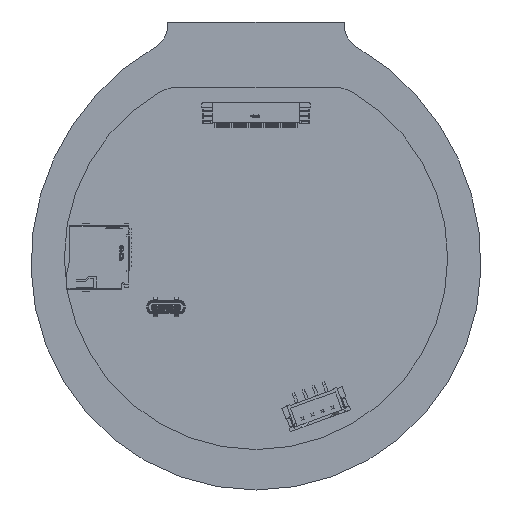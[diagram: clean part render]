
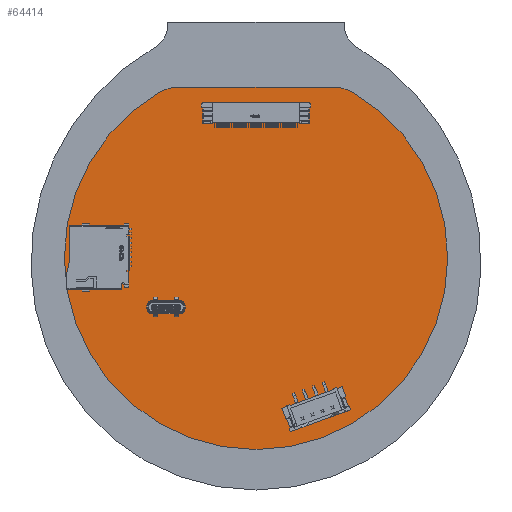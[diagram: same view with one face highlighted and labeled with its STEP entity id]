
A CAD part, front view. The second image highlights one B-rep face of the part: STEP entity #64414.
In plain terms, the highlighted planar face has unit normal (0, -1, 0).
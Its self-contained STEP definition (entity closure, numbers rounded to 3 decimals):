
#4592=CIRCLE('',#68117,8.);
#4594=CIRCLE('',#68120,45.);
#4596=CIRCLE('',#68123,8.);
#5982=FACE_OUTER_BOUND('',#9259,.T.);
#9259=EDGE_LOOP('',(#43471,#43472,#43473,#43474));
#12657=LINE('',#88536,#20277);
#20277=VECTOR('',#72471,10.);
#27906=VERTEX_POINT('',#88520);
#27907=VERTEX_POINT('',#88521);
#27910=VERTEX_POINT('',#88529);
#27912=VERTEX_POINT('',#88535);
#34103=EDGE_CURVE('',#27906,#27907,#4592,.T.);
#34107=EDGE_CURVE('',#27910,#27907,#4594,.T.);
#34110=EDGE_CURVE('',#27906,#27912,#12657,.T.);
#34111=EDGE_CURVE('',#27910,#27912,#4596,.T.);
#43471=ORIENTED_EDGE('',*,*,#34103,.F.);
#43472=ORIENTED_EDGE('',*,*,#34110,.T.);
#43473=ORIENTED_EDGE('',*,*,#34111,.F.);
#43474=ORIENTED_EDGE('',*,*,#34107,.T.);
#61908=PLANE('',#68122);
#64414=ADVANCED_FACE('',(#5982),#61908,.T.);
#68117=AXIS2_PLACEMENT_3D('',#88522,#72456,#72457);
#68120=AXIS2_PLACEMENT_3D('',#88530,#72464,#72465);
#68122=AXIS2_PLACEMENT_3D('',#88534,#72469,#72470);
#68123=AXIS2_PLACEMENT_3D('',#88537,#72472,#72473);
#72456=DIRECTION('center_axis',(0.,1.,0.));
#72457=DIRECTION('ref_axis',(0.26,0.,0.966));
#72464=DIRECTION('center_axis',(0.,-1.,0.));
#72465=DIRECTION('ref_axis',(-0.458,0.,0.889));
#72469=DIRECTION('center_axis',(0.,-1.,0.));
#72470=DIRECTION('ref_axis',(0.,0.,-1.));
#72471=DIRECTION('',(-1.,0.,0.));
#72472=DIRECTION('center_axis',(0.,1.,0.));
#72473=DIRECTION('ref_axis',(-0.26,0.,0.966));
#88520=CARTESIAN_POINT('',(18.574,-1.6,41.7));
#88521=CARTESIAN_POINT('',(22.59,-1.6,40.619));
#88522=CARTESIAN_POINT('Origin',(18.574,-1.6,33.7));
#88529=CARTESIAN_POINT('',(-22.59,-1.6,40.619));
#88530=CARTESIAN_POINT('Origin',(0.,-1.6,1.7));
#88534=CARTESIAN_POINT('Origin',(0.,-1.6,-0.8));
#88535=CARTESIAN_POINT('',(-18.574,-1.6,41.7));
#88536=CARTESIAN_POINT('',(20.616,-1.6,41.7));
#88537=CARTESIAN_POINT('Origin',(-18.574,-1.6,33.7));
